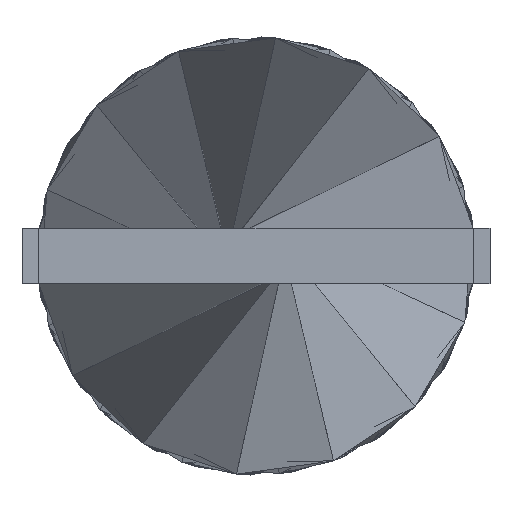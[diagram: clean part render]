
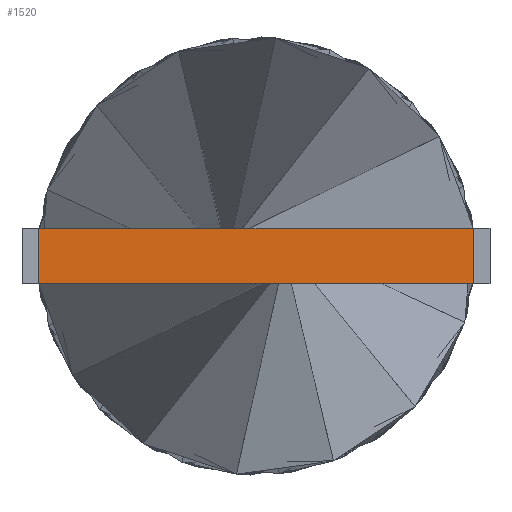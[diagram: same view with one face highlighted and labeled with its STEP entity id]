
A CAD part, front view. The second image highlights one B-rep face of the part: STEP entity #1520.
In plain terms, the highlighted planar face has unit normal (0, -1, 0).
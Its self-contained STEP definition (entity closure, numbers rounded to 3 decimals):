
#483 = DIRECTION ( 'NONE',  ( 0., 0., 1. ) ) ;
#507 = CARTESIAN_POINT ( 'NONE',  ( -3.9, 0., -0.5 ) ) ;
#630 = LINE ( 'NONE', #507, #720 ) ;
#656 = LINE ( 'NONE', #791, #664 ) ;
#664 = VECTOR ( 'NONE', #809, 1000. ) ;
#669 = CARTESIAN_POINT ( 'NONE',  ( 3.9, 0., -0.5 ) ) ;
#720 = VECTOR ( 'NONE', #483, 1000. ) ;
#743 = FACE_OUTER_BOUND ( 'NONE', #1801, .T. ) ;
#791 = CARTESIAN_POINT ( 'NONE',  ( 3.9, 0., -0.5 ) ) ;
#809 = DIRECTION ( 'NONE',  ( 0., 0., 1. ) ) ;
#893 = LINE ( 'NONE', #1528, #956 ) ;
#956 = VECTOR ( 'NONE', #1562, 1000. ) ;
#1140 = LINE ( 'NONE', #2035, #1161 ) ;
#1161 = VECTOR ( 'NONE', #1992, 1000. ) ;
#1279 = EDGE_CURVE ( 'NONE', #2242, #1750, #656, .T. ) ;
#1367 = EDGE_CURVE ( 'NONE', #1643, #1941, #630, .T. ) ;
#1520 = ADVANCED_FACE ( 'NONE', ( #743 ), #2158, .T. ) ;
#1528 = CARTESIAN_POINT ( 'NONE',  ( -3.9, 0., -0.5 ) ) ;
#1562 = DIRECTION ( 'NONE',  ( 1., 0., 0. ) ) ;
#1563 = DIRECTION ( 'NONE',  ( 0., 0., -1. ) ) ;
#1643 = VERTEX_POINT ( 'NONE', #2229 ) ;
#1709 = ORIENTED_EDGE ( 'NONE', *, *, #2414, .F. ) ;
#1750 = VERTEX_POINT ( 'NONE', #2453 ) ;
#1801 = EDGE_LOOP ( 'NONE', ( #2017, #1709, #1868, #2301 ) ) ;
#1868 = ORIENTED_EDGE ( 'NONE', *, *, #1367, .F. ) ;
#1882 = AXIS2_PLACEMENT_3D ( 'NONE', #2176, #2399, #1563 ) ;
#1941 = VERTEX_POINT ( 'NONE', #2167 ) ;
#1992 = DIRECTION ( 'NONE',  ( 1., 0., 0. ) ) ;
#2017 = ORIENTED_EDGE ( 'NONE', *, *, #1279, .T. ) ;
#2035 = CARTESIAN_POINT ( 'NONE',  ( -3.9, 0., 0.5 ) ) ;
#2145 = EDGE_CURVE ( 'NONE', #1643, #2242, #893, .T. ) ;
#2158 = PLANE ( 'NONE',  #1882 ) ;
#2167 = CARTESIAN_POINT ( 'NONE',  ( -3.9, 0., 0.5 ) ) ;
#2176 = CARTESIAN_POINT ( 'NONE',  ( -3.9, 0., -0.5 ) ) ;
#2229 = CARTESIAN_POINT ( 'NONE',  ( -3.9, 0., -0.5 ) ) ;
#2242 = VERTEX_POINT ( 'NONE', #669 ) ;
#2301 = ORIENTED_EDGE ( 'NONE', *, *, #2145, .T. ) ;
#2399 = DIRECTION ( 'NONE',  ( 0., -1., 0. ) ) ;
#2414 = EDGE_CURVE ( 'NONE', #1941, #1750, #1140, .T. ) ;
#2453 = CARTESIAN_POINT ( 'NONE',  ( 3.9, 0., 0.5 ) ) ;
